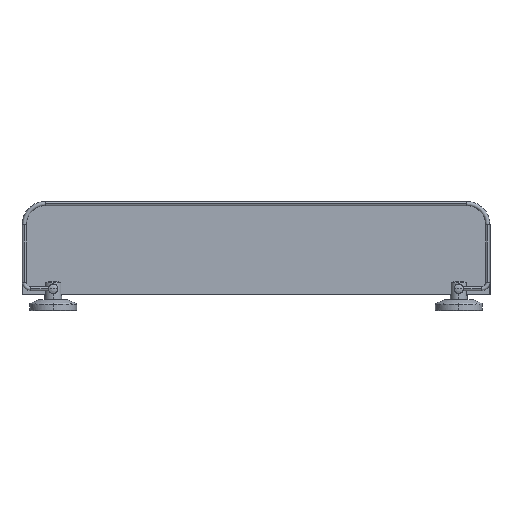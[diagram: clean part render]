
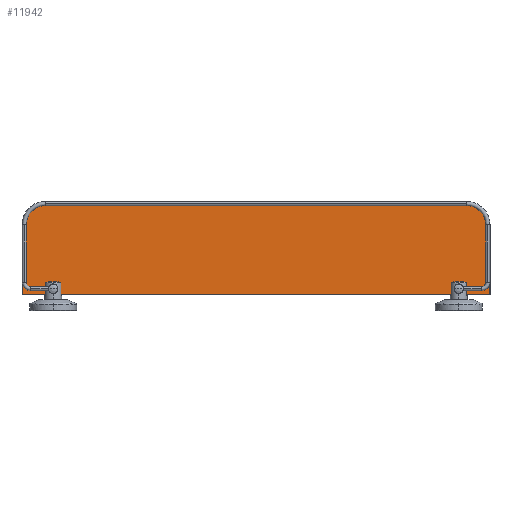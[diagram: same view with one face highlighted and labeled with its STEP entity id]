
A CAD part, top view. The second image highlights one B-rep face of the part: STEP entity #11942.
In plain terms, the highlighted planar face has unit normal (0, 0, 1).
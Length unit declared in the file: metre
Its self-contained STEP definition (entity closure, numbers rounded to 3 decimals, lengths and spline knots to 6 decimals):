
#11942=ADVANCED_FACE('',(#11948),#11943,.F.);
#11943=PLANE('',#11944);
#11944=AXIS2_PLACEMENT_3D('',#11945,#11946,#11947);
#11945=CARTESIAN_POINT('',(-0.26,0.0061,0.004));
#11946=DIRECTION('',(0.0,0.0,-1.0));
#11947=DIRECTION('',(1.0,0.0,0.0));
#11948=FACE_OUTER_BOUND('',#11949,.T.);
#11949=EDGE_LOOP('',(#11950,#11960,#11968,#11976,#11985,#11993));
#11950=ORIENTED_EDGE('',*,*,#11951,.T.);
#11951=EDGE_CURVE('',#11952,#11954,#11956,.T.);
#11952=VERTEX_POINT('',#11953);
#11953=CARTESIAN_POINT('',(-0.5595,0.0961,0.004));
#11954=VERTEX_POINT('',#11955);
#11955=CARTESIAN_POINT('',(-0.5595,0.0066,0.004));
#11956=LINE('',#11957,#11958);
#11957=CARTESIAN_POINT('',(-0.5595,0.0061,0.004));
#11958=VECTOR('',#11959,1.0);
#11959=DIRECTION('',(0.0,-1.0,0.0));
#11960=ORIENTED_EDGE('',*,*,#11961,.T.);
#11961=EDGE_CURVE('',#11954,#11962,#11964,.T.);
#11962=VERTEX_POINT('',#11963);
#11963=CARTESIAN_POINT('',(0.0395,0.0066,0.004));
#11964=LINE('',#11965,#11966);
#11965=CARTESIAN_POINT('',(-0.26,0.0066,0.004));
#11966=VECTOR('',#11967,1.0);
#11967=DIRECTION('',(1.0,0.0,0.0));
#11968=ORIENTED_EDGE('',*,*,#11969,.T.);
#11969=EDGE_CURVE('',#11962,#11970,#11972,.T.);
#11970=VERTEX_POINT('',#11971);
#11971=CARTESIAN_POINT('',(0.0395,0.0961,0.004));
#11972=LINE('',#11973,#11974);
#11973=CARTESIAN_POINT('',(0.0395,0.0061,0.004));
#11974=VECTOR('',#11975,1.0);
#11975=DIRECTION('',(0.0,1.0,0.0));
#11976=ORIENTED_EDGE('',*,*,#11977,.T.);
#11977=EDGE_CURVE('',#11970,#11978,#11980,.F.);
#11978=VERTEX_POINT('',#11979);
#11979=CARTESIAN_POINT('',(0.01,0.1256,0.004));
#11980=CIRCLE('',#11981,0.0295);
#11981=AXIS2_PLACEMENT_3D('',#11982,#11983,#11984);
#11982=CARTESIAN_POINT('',(0.01,0.0961,0.004));
#11983=DIRECTION('',(0.0,0.0,-1.0));
#11984=DIRECTION('',(-1.0,0.0,0.0));
#11985=ORIENTED_EDGE('',*,*,#11986,.T.);
#11986=EDGE_CURVE('',#11978,#11987,#11989,.T.);
#11987=VERTEX_POINT('',#11988);
#11988=CARTESIAN_POINT('',(-0.53,0.1256,0.004));
#11989=LINE('',#11990,#11991);
#11990=CARTESIAN_POINT('',(-0.26,0.1256,0.004));
#11991=VECTOR('',#11992,1.0);
#11992=DIRECTION('',(-1.0,0.0,0.0));
#11993=ORIENTED_EDGE('',*,*,#11994,.T.);
#11994=EDGE_CURVE('',#11987,#11952,#11995,.F.);
#11995=CIRCLE('',#11996,0.0295);
#11996=AXIS2_PLACEMENT_3D('',#11997,#11998,#11999);
#11997=CARTESIAN_POINT('',(-0.53,0.0961,0.004));
#11998=DIRECTION('',(0.0,0.0,-1.0));
#11999=DIRECTION('',(-1.0,0.0,0.0));
